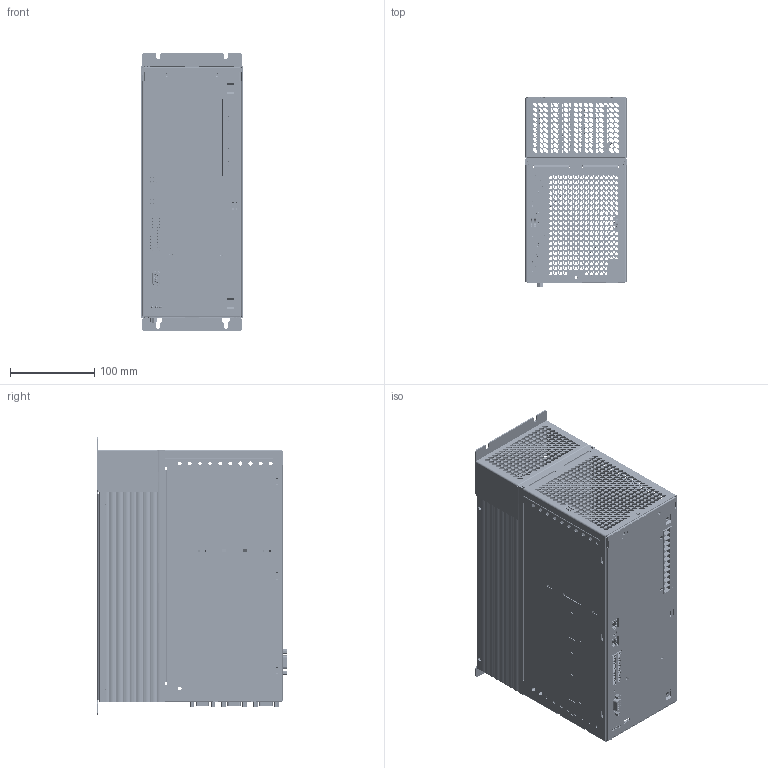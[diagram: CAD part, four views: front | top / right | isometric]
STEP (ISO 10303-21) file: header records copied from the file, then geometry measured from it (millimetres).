
FILE_DESCRIPTION (( 'STEP AP214' ), '1' );
FILE_NAME ('CDE34.014.W_34.017.W.STEP', '2010-10-26T10:10:00', ( 'Bereich' ), ( 'LTi DRiVES GmbH' ), 'SwSTEP 2.0', 'SolidWorks 2008', '' );
FILE_SCHEMA (( 'AUTOMOTIVE_DESIGN' ));
Length unit declared in the file: millimetre
Products named in the file (29): DISTANZBOLZEN 107749_Standard; 0894.Seitenteil-rechts_Standard; polig-Stift_Standard; D_SUB_15POLIG_Standard; TEST_Standard; D_SUB_9POLIG_108581_Standard; DRUCKTASTER-105903_Standard; D-SUB 9POLIG 106257_Standard; TEIL6_Standard; CODIERSCHALTER1_Standard; 1020.509.0_Standard; 1020.504.0_Standard; STEUERPRINT CDE1_Standard; Self-clinching Nut_PMM_PEM S-M4-1 ZI--N; MCDN_1.5-12-G1-3.5-P26THR(1)1_Standard; LED_3FACH_108456_Standard; MSTBA_2.5-2-G1_Standard; MSTBA_2.5-2-G(1)1_Standard; MCDN_1.5-12-G1-3.5-P26THR1_Standard; CDE34.014.W_34.017.W; 0894.Seitenteil-links_Standard; 0894.500.0_Standard; 0894.K黨lk鰎per_Standard; 1020.504.0; pc_4-12-g-7.62_Standard; Lüfterkasten_Standard
Assembly tree (42 placements, depth 4):
  CDE34.014.W_34.017.W
    DISTANZBOLZEN 107749_Standard  x8
    0894.K黨lk鰎per_Standard
    STEUERPRINT CDE1_Standard
      polig-Stift_Standard
      MCDN_1.5-12-G1-3.5-P26THR(1)1_Standard
        MCDN_1.5-12-G1-3.5-P26THR1_Standard
      D-SUB 9POLIG 106257_Standard
        D-SUB 9POLIG 106257_Standard
      MSTBA_2.5-2-G(1)1_Standard  x2
        MSTBA_2.5-2-G1_Standard
      TEIL6_Standard
      D_SUB_9POLIG_108581_Standard
        TEST_Standard
      CODIERSCHALTER1_Standard
      D_SUB_15POLIG_Standard
      DRUCKTASTER-105903_Standard  x2
        DRUCKTASTER-105903_Standard
      LED_3FACH_108456_Standard
        LED_3FACH_108456_Standard
    Lüfterkasten_Standard
    1020.504.0
      1020.509.0_Standard
      1020.504.0_Standard
      Self-clinching Nut_PMM_PEM S-M4-1 ZI--N  x6
    pc_4-12-g-7.62_Standard
    0894.500.0_Standard
    0894.Seitenteil-rechts_Standard
    0894.Seitenteil-links_Standard
Bounding box: 120 x 225.1 x 330 mm (x, y, z)
Volume: 1220547.9 mm3; surface area: 949345.4 mm2
Topology: 33 solids, 69 shells, 8381 faces, 22799 edges, 14840 vertices
Faces by surface type: plane 4355, cylinder 2050, bspline 1677, cone 248, torus 33, sphere 18
Entity records: 284726 total; most frequent: CARTESIAN_POINT 66573, ORIENTED_EDGE 40979, DIRECTION 32798, EDGE_CURVE 20542, VERTEX_POINT 13404, LINE 12820, VECTOR 12820, AXIS2_PLACEMENT_3D 9989
